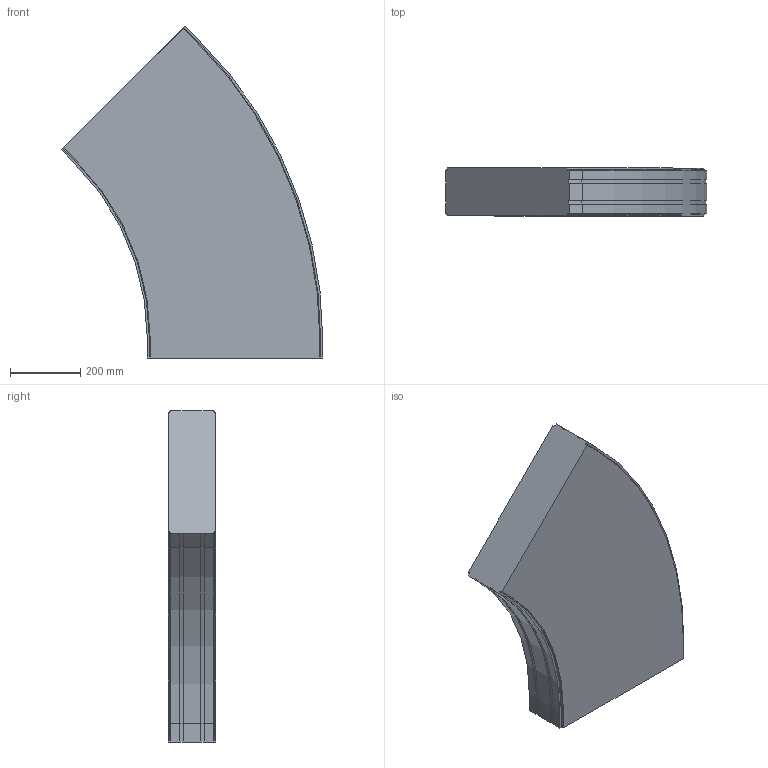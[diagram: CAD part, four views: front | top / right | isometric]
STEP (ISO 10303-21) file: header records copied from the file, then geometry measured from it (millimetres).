
FILE_DESCRIPTION (( 'STEP AP214' ), '1' );
FILE_NAME ('FS-MTC2-150-INOX horizontaalbocht.500 45°.STEP', '2017-02-08T12:40:39', ( '' ), ( '' ), 'SwSTEP 2.0', 'SolidWorks 2016', '' );
FILE_SCHEMA (( 'AUTOMOTIVE_DESIGN' ));
Length unit declared in the file: millimetre
Products named in the file (1): FS-MTC2-150-INOX horizontaalbocht.500 45°
Bounding box: 744.22 x 136.5 x 944.87 mm (x, y, z)
Volume: 58243548.3 mm3; surface area: 1244556.7 mm2
Topology: 1 solids, 1 shells, 74 faces, 216 edges, 144 vertices
Faces by surface type: plane 56, cylinder 18
Entity records: 2470 total; most frequent: CARTESIAN_POINT 435, ORIENTED_EDGE 432, DIRECTION 402, EDGE_CURVE 216, LINE 180, VECTOR 180, VERTEX_POINT 144, AXIS2_PLACEMENT_3D 111
